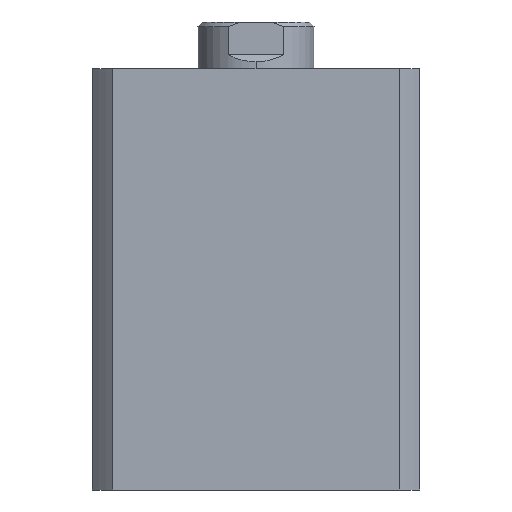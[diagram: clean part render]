
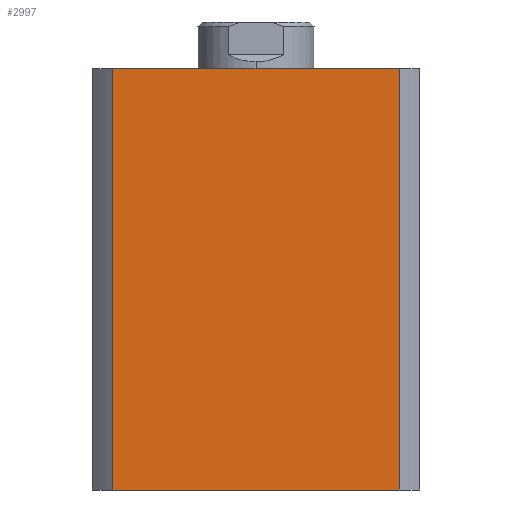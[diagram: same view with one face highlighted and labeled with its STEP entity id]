
A CAD part, left-side view. The second image highlights one B-rep face of the part: STEP entity #2997.
In plain terms, the highlighted planar face has unit normal (-1, 0, 0).
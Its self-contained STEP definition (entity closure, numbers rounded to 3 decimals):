
#993 = AXIS2_PLACEMENT_3D ( 'NONE', #3499, #3504, #3505 ) ;
#1172 = ORIENTED_EDGE ( 'NONE', *, *, #1442, .F. ) ;
#1173 = ORIENTED_EDGE ( 'NONE', *, *, #1407, .F. ) ;
#1175 = ORIENTED_EDGE ( 'NONE', *, *, #1408, .T. ) ;
#1176 = ORIENTED_EDGE ( 'NONE', *, *, #1409, .T. ) ;
#1407 = EDGE_CURVE ( 'NONE', #4852, #4850, #2485, .T. ) ;
#1408 = EDGE_CURVE ( 'NONE', #4960, #4850, #2490, .T. ) ;
#1409 = EDGE_CURVE ( 'NONE', #5012, #4960, #2489, .T. ) ;
#1442 = EDGE_CURVE ( 'NONE', #5012, #4852, #2535, .T. ) ;
#1860 = DIRECTION ( 'NONE',  ( 0., 0., -1. ) ) ;
#1864 = CARTESIAN_POINT ( 'NONE',  ( -35., 30.615, 90. ) ) ;
#1865 = CARTESIAN_POINT ( 'NONE',  ( -35., -30.615, 90. ) ) ;
#1869 = CARTESIAN_POINT ( 'NONE',  ( -35., 0., 0. ) ) ;
#1871 = DIRECTION ( 'NONE',  ( 0., -1., 0. ) ) ;
#1872 = DIRECTION ( 'NONE',  ( 0., 0., -1. ) ) ;
#2030 = DIRECTION ( 'NONE',  ( 0., -1., 0. ) ) ;
#2031 = CARTESIAN_POINT ( 'NONE',  ( -35., 0., 90. ) ) ;
#2485 = LINE ( 'NONE', #1865, #2491 ) ;
#2489 = LINE ( 'NONE', #1864, #2495 ) ;
#2490 = LINE ( 'NONE', #1869, #2493 ) ;
#2491 = VECTOR ( 'NONE', #1860, 1000. ) ;
#2493 = VECTOR ( 'NONE', #1871, 1000. ) ;
#2495 = VECTOR ( 'NONE', #1872, 1000. ) ;
#2535 = LINE ( 'NONE', #2031, #2537 ) ;
#2537 = VECTOR ( 'NONE', #2030, 1000. ) ;
#2730 = FACE_OUTER_BOUND ( 'NONE', #4280, .T. ) ;
#2997 = ADVANCED_FACE ( 'NONE', ( #2730 ), #3501, .F. ) ;
#3499 = CARTESIAN_POINT ( 'NONE',  ( -35., 0., 90. ) ) ;
#3501 = PLANE ( 'NONE',  #993 ) ;
#3504 = DIRECTION ( 'NONE',  ( 1., 0., 0. ) ) ;
#3505 = DIRECTION ( 'NONE',  ( 0., 1., 0. ) ) ;
#3629 = CARTESIAN_POINT ( 'NONE',  ( -35., -30.615, 90. ) ) ;
#3634 = CARTESIAN_POINT ( 'NONE',  ( -35., -30.615, 0. ) ) ;
#3703 = CARTESIAN_POINT ( 'NONE',  ( -35., 30.615, 0. ) ) ;
#3755 = CARTESIAN_POINT ( 'NONE',  ( -35., 30.615, 90. ) ) ;
#4280 = EDGE_LOOP ( 'NONE', ( #1175, #1173, #1172, #1176 ) ) ;
#4850 = VERTEX_POINT ( 'NONE', #3634 ) ;
#4852 = VERTEX_POINT ( 'NONE', #3629 ) ;
#4960 = VERTEX_POINT ( 'NONE', #3703 ) ;
#5012 = VERTEX_POINT ( 'NONE', #3755 ) ;
